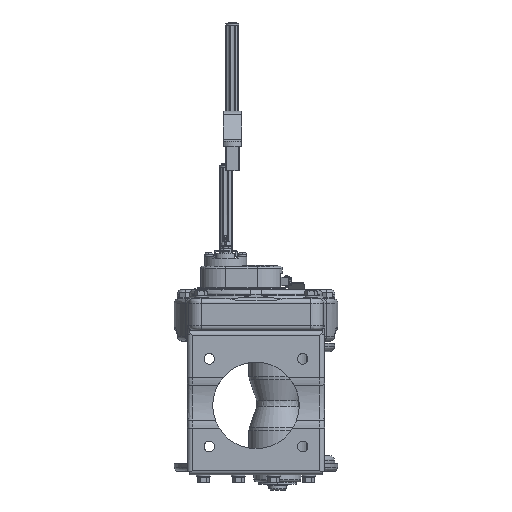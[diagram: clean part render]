
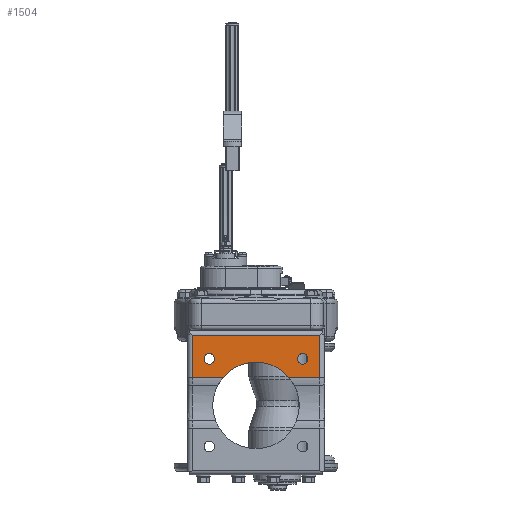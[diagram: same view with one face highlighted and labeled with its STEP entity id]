
A CAD part, front view. The second image highlights one B-rep face of the part: STEP entity #1504.
In plain terms, the highlighted planar face has unit normal (0, -1, 0).
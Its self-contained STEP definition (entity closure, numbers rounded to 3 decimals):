
#1504=ADVANCED_FACE('',(#16553,#16554,#16555),#16552,.F.);
#16552=PLANE('',#39706);
#16553=FACE_OUTER_BOUND('',#39707,.T.);
#16554=FACE_BOUND('',#39708,.T.);
#16555=FACE_BOUND('',#39709,.T.);
#39703=CARTESIAN_POINT('',(-127.722,-108.7,-182.168));
#39704=DIRECTION('',(0.,1.,0.));
#39705=DIRECTION('',(0.,0.,-1.));
#39706=AXIS2_PLACEMENT_3D('',#39703,#39704,#39705);
#39707=EDGE_LOOP('',(#59007,#59008,#59009,#59010,#59011,#59012,#59013));
#39708=EDGE_LOOP('',(#59014,#59015));
#39709=EDGE_LOOP('',(#59016,#59017));
#59007=ORIENTED_EDGE('',*,*,#70022,.T.);
#59008=ORIENTED_EDGE('',*,*,#70023,.T.);
#59009=ORIENTED_EDGE('',*,*,#70024,.T.);
#59010=ORIENTED_EDGE('',*,*,#70019,.T.);
#59011=ORIENTED_EDGE('',*,*,#70025,.T.);
#59012=ORIENTED_EDGE('',*,*,#70026,.F.);
#59013=ORIENTED_EDGE('',*,*,#70027,.F.);
#59014=ORIENTED_EDGE('',*,*,#70028,.T.);
#59015=ORIENTED_EDGE('',*,*,#70029,.T.);
#59016=ORIENTED_EDGE('',*,*,#70030,.T.);
#59017=ORIENTED_EDGE('',*,*,#70031,.T.);
#70019=EDGE_CURVE('',#100283,#100284,#100285,.T.);
#70022=EDGE_CURVE('',#100303,#100304,#100305,.T.);
#70023=EDGE_CURVE('',#100304,#100311,#100312,.T.);
#70024=EDGE_CURVE('',#100311,#100283,#100318,.T.);
#70025=EDGE_CURVE('',#100284,#100324,#100325,.T.);
#70026=EDGE_CURVE('',#100331,#100324,#100332,.T.);
#70027=EDGE_CURVE('',#100303,#100331,#100338,.T.);
#70028=EDGE_CURVE('',#100344,#100345,#100346,.T.);
#70029=EDGE_CURVE('',#100345,#100344,#100352,.T.);
#70030=EDGE_CURVE('',#100358,#100359,#100360,.T.);
#70031=EDGE_CURVE('',#100359,#100358,#100366,.T.);
#100283=VERTEX_POINT('',#138140);
#100284=VERTEX_POINT('',#138141);
#100285=LINE('',#138142,#138143);
#100303=VERTEX_POINT('',#138159);
#100304=VERTEX_POINT('',#138160);
#100305=LINE('',#138161,#138162);
#100311=VERTEX_POINT('',#138164);
#100312=CIRCLE('',#138168,74.);
#100318=CIRCLE('',#138172,74.);
#100324=VERTEX_POINT('',#138173);
#100325=LINE('',#138174,#138175);
#100331=VERTEX_POINT('',#138177);
#100332=LINE('',#138178,#138179);
#100338=LINE('',#138181,#138182);
#100344=VERTEX_POINT('',#138184);
#100345=VERTEX_POINT('',#138185);
#100346=CIRCLE('',#138189,9.);
#100352=CIRCLE('',#138193,9.);
#100358=VERTEX_POINT('',#138194);
#100359=VERTEX_POINT('',#138195);
#100360=CIRCLE('',#138199,9.);
#100366=CIRCLE('',#138203,9.);
#138140=CARTESIAN_POINT('',(-190.938,-108.7,-261.321));
#138141=CARTESIAN_POINT('',(-137.722,-108.7,-261.321));
#138142=CARTESIAN_POINT('',(-190.938,-108.7,-261.321));
#138143=VECTOR('',#138144,53.216);
#138144=DIRECTION('',(1.,0.,0.));
#138159=CARTESIAN_POINT('',(-356.722,-108.7,-261.321));
#138160=CARTESIAN_POINT('',(-303.505,-108.7,-261.321));
#138161=CARTESIAN_POINT('',(-356.722,-108.7,-261.321));
#138162=VECTOR('',#138163,53.216);
#138163=DIRECTION('',(1.,0.,0.));
#138164=CARTESIAN_POINT('',(-247.222,-108.7,-235.364));
#138165=CARTESIAN_POINT('',(-247.222,-108.7,-309.364));
#138166=DIRECTION('',(0.,1.,0.));
#138167=DIRECTION('',(-0.761,0.,0.649));
#138168=AXIS2_PLACEMENT_3D('',#138165,#138166,#138167);
#138169=CARTESIAN_POINT('',(-247.222,-108.7,-309.364));
#138170=DIRECTION('',(0.,1.,0.));
#138171=DIRECTION('',(-0.761,0.,0.649));
#138172=AXIS2_PLACEMENT_3D('',#138169,#138170,#138171);
#138173=CARTESIAN_POINT('',(-137.722,-108.7,-189.364));
#138174=CARTESIAN_POINT('',(-137.722,-108.7,-261.321));
#138175=VECTOR('',#138176,71.957);
#138176=DIRECTION('',(0.,0.,1.));
#138177=CARTESIAN_POINT('',(-356.722,-108.7,-189.364));
#138178=CARTESIAN_POINT('',(-356.722,-108.7,-189.364));
#138179=VECTOR('',#138180,219.);
#138180=DIRECTION('',(1.,0.,0.));
#138181=CARTESIAN_POINT('',(-356.722,-108.7,-261.321));
#138182=VECTOR('',#138183,71.957);
#138183=DIRECTION('',(0.,0.,1.));
#138184=CARTESIAN_POINT('',(-167.222,-108.7,-238.864));
#138185=CARTESIAN_POINT('',(-167.222,-108.7,-220.864));
#138186=CARTESIAN_POINT('',(-167.222,-108.7,-229.864));
#138187=DIRECTION('',(0.,1.,0.));
#138188=DIRECTION('',(0.,0.,-1.));
#138189=AXIS2_PLACEMENT_3D('',#138186,#138187,#138188);
#138190=CARTESIAN_POINT('',(-167.222,-108.7,-229.864));
#138191=DIRECTION('',(0.,1.,0.));
#138192=DIRECTION('',(0.,0.,-1.));
#138193=AXIS2_PLACEMENT_3D('',#138190,#138191,#138192);
#138194=CARTESIAN_POINT('',(-327.222,-108.7,-238.864));
#138195=CARTESIAN_POINT('',(-327.222,-108.7,-220.864));
#138196=CARTESIAN_POINT('',(-327.222,-108.7,-229.864));
#138197=DIRECTION('',(0.,1.,0.));
#138198=DIRECTION('',(0.,0.,-1.));
#138199=AXIS2_PLACEMENT_3D('',#138196,#138197,#138198);
#138200=CARTESIAN_POINT('',(-327.222,-108.7,-229.864));
#138201=DIRECTION('',(0.,1.,0.));
#138202=DIRECTION('',(0.,0.,-1.));
#138203=AXIS2_PLACEMENT_3D('',#138200,#138201,#138202);
